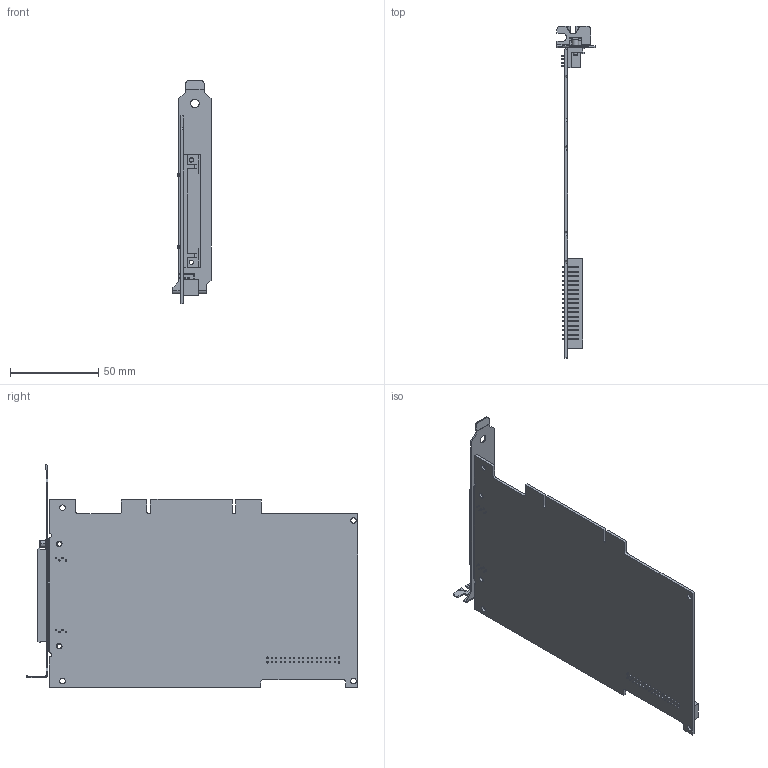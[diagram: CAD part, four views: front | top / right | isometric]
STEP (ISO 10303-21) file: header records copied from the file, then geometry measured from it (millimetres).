
FILE_DESCRIPTION((''),'2;1');
FILE_NAME('CU_PCI-6601_6602','2011-08-18T',('dkendric'),(''),'PRO/ENGINEER BY PARAMETRIC TECHNOLOGY CORPORATION, 2010230','PRO/ENGINEER BY PARAMETRIC TECHNOLOGY CORPORATION, 2010230','');
FILE_SCHEMA(('CONFIG_CONTROL_DESIGN'));
Length unit declared in the file: inch
Products named in the file (1): CU_PCI-6601_6602
Bounding box: 21.59 x 187.77 x 126.21 mm (x, y, z)
Volume: 35450.5 mm3; surface area: 46042.3 mm2
Topology: 1 solids, 1 shells, 852 faces, 2332 edges, 1540 vertices
Faces by surface type: plane 669, cylinder 175, bspline 4, cone 4
Entity records: 27094 total; most frequent: CARTESIAN_POINT 4870, ORIENTED_EDGE 4664, DIRECTION 4376, EDGE_CURVE 2332, VECTOR 1960, LINE 1960, VERTEX_POINT 1540, AXIS2_PLACEMENT_3D 1208
